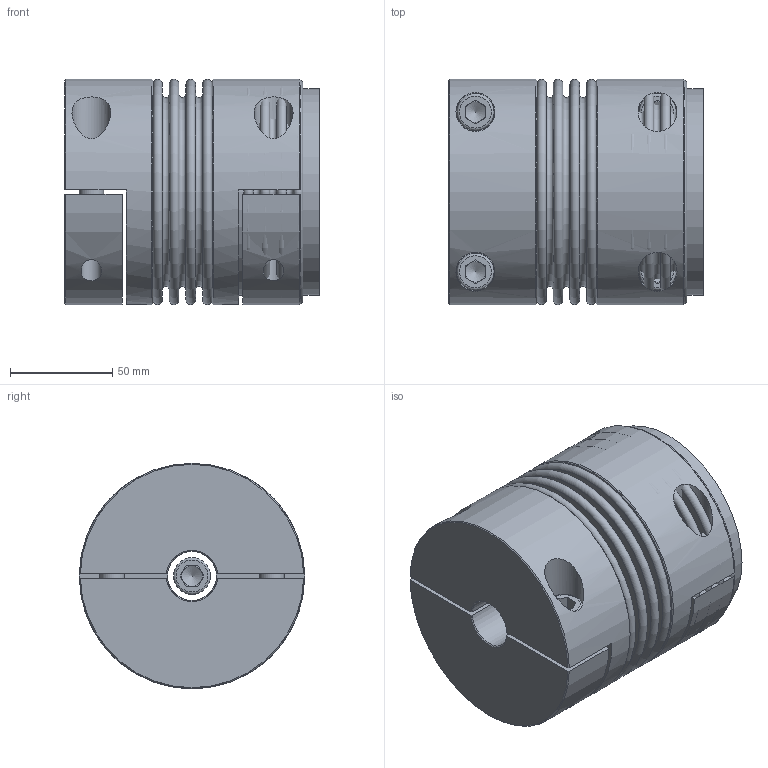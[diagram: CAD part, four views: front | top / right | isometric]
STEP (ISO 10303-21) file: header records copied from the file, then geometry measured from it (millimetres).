
FILE_DESCRIPTION( ( 'Unknown' ), '1' );
FILE_NAME( 'C:/Dokumente und Einstellungen/SKarpstein/Desktop/hp kbk/KB4H-300-111.stp', 'Unknown', ( 'Unknown' ), ( 'Unknown' ), 'XStep 1.0', 'Unknown', ' ' );
FILE_SCHEMA( ( 'automotive_design' ) );
Length unit declared in the file: millimetre
Products named in the file (5): Assem1; KN4H-300; BK300_Standard_0; Socket Head Cap Screw_DIN_DIN 912 M12 x 40 --- 40N_0
Bounding box: 124.26 x 110 x 110 mm (x, y, z)
Volume: 1126009.7 mm3; surface area: 298739 mm2
Topology: 13 solids, 13 shells, 255 faces, 525 edges, 336 vertices
Faces by surface type: plane 144, cylinder 48, torus 38, cone 25
Full cylindrical faces by diameter (mm): 10.106 x6, 12 x5, 12.5 x6, 18 x5, 19 x6, 24 x3, 99.8 x4, 101 x4, 110 x3
Entity records: 2582 total; most frequent: CARTESIAN_POINT 686, DIRECTION 370, ORIENTED_EDGE 248, AXIS2_PLACEMENT_3D 165, EDGE_LOOP 146, EDGE_CURVE 124, FACE_OUTER_BOUND 113, VERTEX_POINT 101
